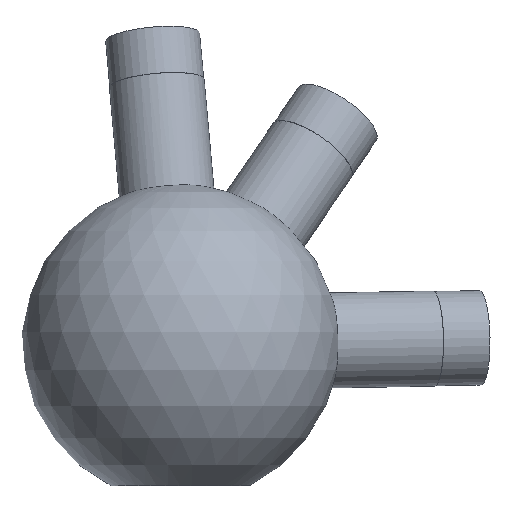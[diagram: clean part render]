
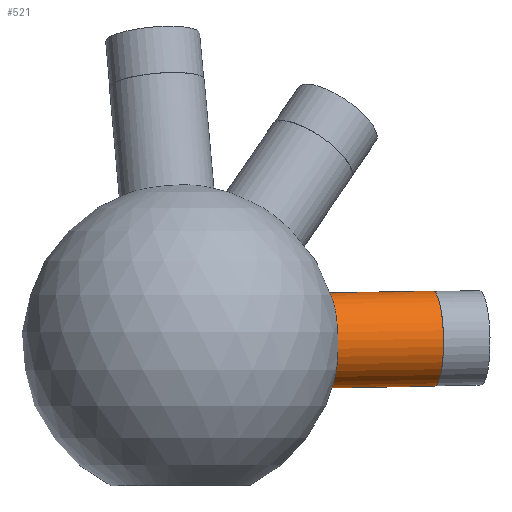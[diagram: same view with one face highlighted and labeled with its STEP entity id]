
A CAD part, left-side view. The second image highlights one B-rep face of the part: STEP entity #521.
In plain terms, the highlighted cylindrical face has radius 6 mm (diameter 12 mm), a full revolution.
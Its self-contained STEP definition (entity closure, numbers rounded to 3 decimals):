
#33 = SPHERICAL_SURFACE('',#34,20.);
#34 = AXIS2_PLACEMENT_3D('',#35,#36,#37);
#35 = CARTESIAN_POINT('',(0.,0.,0.));
#36 = DIRECTION('',(0.,0.,1.));
#37 = DIRECTION('',(1.,0.,-0.));
#247 = EDGE_CURVE('',#248,#248,#250,.T.);
#248 = VERTEX_POINT('',#249);
#249 = CARTESIAN_POINT('',(-1.934,-19.904,
    0.324));
#250 = SURFACE_CURVE('',#251,(#256,#318),.PCURVE_S1.);
#251 = CIRCLE('',#252,6.);
#252 = AXIS2_PLACEMENT_3D('',#253,#254,#255);
#253 = CARTESIAN_POINT('',(3.937,-18.665,0.324
    ));
#254 = DIRECTION('',(0.206,-0.978,0.017));
#255 = DIRECTION('',(0.978,0.206,0.));
#256 = PCURVE('',#33,#257);
#257 = DEFINITIONAL_REPRESENTATION('',(#258),#317);
#258 = B_SPLINE_CURVE_WITH_KNOTS('',8,(#259,#260,#261,#262,#263,#264,
    #265,#266,#267,#268,#269,#270,#271,#272,#273,#274,#275,#276,#277,
    #278,#279,#280,#281,#282,#283,#284,#285,#286,#287,#288,#289,#290,
    #291,#292,#293,#294,#295,#296,#297,#298,#299,#300,#301,#302,#303,
    #304,#305,#306,#307,#308,#309,#310,#311,#312,#313,#314,#315,#316),
  .UNSPECIFIED.,.F.,.F.,(9,7,7,7,7,7,7,7,9),(3.142,
    3.927,4.614,5.216,6.268,
    7.057,7.649,8.537,9.425),
  .UNSPECIFIED.);
#259 = CARTESIAN_POINT('',(4.616,0.016));
#260 = CARTESIAN_POINT('',(4.616,-0.013));
#261 = CARTESIAN_POINT('',(4.619,-0.043));
#262 = CARTESIAN_POINT('',(4.625,-0.072));
#263 = CARTESIAN_POINT('',(4.635,-0.1));
#264 = CARTESIAN_POINT('',(4.648,-0.127));
#265 = CARTESIAN_POINT('',(4.663,-0.152));
#266 = CARTESIAN_POINT('',(4.681,-0.176));
#267 = CARTESIAN_POINT('',(4.72,-0.216));
#268 = CARTESIAN_POINT('',(4.741,-0.233));
#269 = CARTESIAN_POINT('',(4.762,-0.247));
#270 = CARTESIAN_POINT('',(4.786,-0.26));
#271 = CARTESIAN_POINT('',(4.811,-0.27));
#272 = CARTESIAN_POINT('',(4.836,-0.278));
#273 = CARTESIAN_POINT('',(4.863,-0.284));
#274 = CARTESIAN_POINT('',(4.913,-0.288));
#275 = CARTESIAN_POINT('',(4.937,-0.289));
#276 = CARTESIAN_POINT('',(4.96,-0.287));
#277 = CARTESIAN_POINT('',(4.984,-0.283));
#278 = CARTESIAN_POINT('',(5.006,-0.278));
#279 = CARTESIAN_POINT('',(5.029,-0.27));
#280 = CARTESIAN_POINT('',(5.05,-0.26));
#281 = CARTESIAN_POINT('',(5.105,-0.23));
#282 = CARTESIAN_POINT('',(5.137,-0.205));
#283 = CARTESIAN_POINT('',(5.165,-0.175));
#284 = CARTESIAN_POINT('',(5.188,-0.142));
#285 = CARTESIAN_POINT('',(5.206,-0.105));
#286 = CARTESIAN_POINT('',(5.218,-0.067));
#287 = CARTESIAN_POINT('',(5.224,-0.028));
#288 = CARTESIAN_POINT('',(5.226,0.041));
#289 = CARTESIAN_POINT('',(5.223,0.071));
#290 = CARTESIAN_POINT('',(5.217,0.1));
#291 = CARTESIAN_POINT('',(5.208,0.129));
#292 = CARTESIAN_POINT('',(5.196,0.156));
#293 = CARTESIAN_POINT('',(5.181,0.182));
#294 = CARTESIAN_POINT('',(5.163,0.206));
#295 = CARTESIAN_POINT('',(5.127,0.244));
#296 = CARTESIAN_POINT('',(5.11,0.259));
#297 = CARTESIAN_POINT('',(5.092,0.273));
#298 = CARTESIAN_POINT('',(5.072,0.285));
#299 = CARTESIAN_POINT('',(5.051,0.295));
#300 = CARTESIAN_POINT('',(5.03,0.304));
#301 = CARTESIAN_POINT('',(5.007,0.31));
#302 = CARTESIAN_POINT('',(4.95,0.322));
#303 = CARTESIAN_POINT('',(4.915,0.325));
#304 = CARTESIAN_POINT('',(4.879,0.323));
#305 = CARTESIAN_POINT('',(4.844,0.317));
#306 = CARTESIAN_POINT('',(4.81,0.306));
#307 = CARTESIAN_POINT('',(4.779,0.292));
#308 = CARTESIAN_POINT('',(4.75,0.273));
#309 = CARTESIAN_POINT('',(4.697,0.23));
#310 = CARTESIAN_POINT('',(4.674,0.205));
#311 = CARTESIAN_POINT('',(4.655,0.177));
#312 = CARTESIAN_POINT('',(4.639,0.147));
#313 = CARTESIAN_POINT('',(4.627,0.116));
#314 = CARTESIAN_POINT('',(4.619,0.083));
#315 = CARTESIAN_POINT('',(4.615,0.05));
#316 = CARTESIAN_POINT('',(4.616,0.016));
#317 = ( GEOMETRIC_REPRESENTATION_CONTEXT(2) 
PARAMETRIC_REPRESENTATION_CONTEXT() REPRESENTATION_CONTEXT('2D SPACE',''
  ) );
#318 = PCURVE('',#319,#324);
#319 = CYLINDRICAL_SURFACE('',#320,6.);
#320 = AXIS2_PLACEMENT_3D('',#321,#322,#323);
#321 = CARTESIAN_POINT('',(0.,0.,0.));
#322 = DIRECTION('',(0.206,-0.978,0.017));
#323 = DIRECTION('',(-0.978,-0.206,0.)
  );
#324 = DEFINITIONAL_REPRESENTATION('',(#325),#329);
#325 = LINE('',#326,#327);
#326 = CARTESIAN_POINT('',(-3.142,19.079));
#327 = VECTOR('',#328,1.);
#328 = DIRECTION('',(1.,0.));
#329 = ( GEOMETRIC_REPRESENTATION_CONTEXT(2) 
PARAMETRIC_REPRESENTATION_CONTEXT() REPRESENTATION_CONTEXT('2D SPACE',''
  ) );
#521 = ADVANCED_FACE('',(#522),#319,.T.);
#522 = FACE_BOUND('',#523,.T.);
#523 = EDGE_LOOP('',(#524,#547,#574,#575));
#524 = ORIENTED_EDGE('',*,*,#525,.T.);
#525 = EDGE_CURVE('',#248,#526,#528,.T.);
#526 = VERTEX_POINT('',#527);
#527 = CARTESIAN_POINT('',(0.876,-33.229,0.556
    ));
#528 = SEAM_CURVE('',#529,(#533,#540),.PCURVE_S1.);
#529 = LINE('',#530,#531);
#530 = CARTESIAN_POINT('',(-5.871,-1.238,
    0.));
#531 = VECTOR('',#532,1.);
#532 = DIRECTION('',(0.206,-0.978,0.017));
#533 = PCURVE('',#319,#534);
#534 = DEFINITIONAL_REPRESENTATION('',(#535),#539);
#535 = LINE('',#536,#537);
#536 = CARTESIAN_POINT('',(6.283,-0.));
#537 = VECTOR('',#538,1.);
#538 = DIRECTION('',(0.,1.));
#539 = ( GEOMETRIC_REPRESENTATION_CONTEXT(2) 
PARAMETRIC_REPRESENTATION_CONTEXT() REPRESENTATION_CONTEXT('2D SPACE',''
  ) );
#540 = PCURVE('',#319,#541);
#541 = DEFINITIONAL_REPRESENTATION('',(#542),#546);
#542 = LINE('',#543,#544);
#543 = CARTESIAN_POINT('',(0.,-0.));
#544 = VECTOR('',#545,1.);
#545 = DIRECTION('',(0.,1.));
#546 = ( GEOMETRIC_REPRESENTATION_CONTEXT(2) 
PARAMETRIC_REPRESENTATION_CONTEXT() REPRESENTATION_CONTEXT('2D SPACE',''
  ) );
#547 = ORIENTED_EDGE('',*,*,#548,.F.);
#548 = EDGE_CURVE('',#526,#526,#549,.T.);
#549 = SURFACE_CURVE('',#550,(#555,#562),.PCURVE_S1.);
#550 = CIRCLE('',#551,6.);
#551 = AXIS2_PLACEMENT_3D('',#552,#553,#554);
#552 = CARTESIAN_POINT('',(6.747,-31.991,0.556)
  );
#553 = DIRECTION('',(0.206,-0.978,0.017));
#554 = DIRECTION('',(-0.978,-0.206,0.)
  );
#555 = PCURVE('',#319,#556);
#556 = DEFINITIONAL_REPRESENTATION('',(#557),#561);
#557 = LINE('',#558,#559);
#558 = CARTESIAN_POINT('',(0.,32.7));
#559 = VECTOR('',#560,1.);
#560 = DIRECTION('',(1.,0.));
#561 = ( GEOMETRIC_REPRESENTATION_CONTEXT(2) 
PARAMETRIC_REPRESENTATION_CONTEXT() REPRESENTATION_CONTEXT('2D SPACE',''
  ) );
#562 = PCURVE('',#563,#568);
#563 = PLANE('',#564);
#564 = AXIS2_PLACEMENT_3D('',#565,#566,#567);
#565 = CARTESIAN_POINT('',(6.747,-31.991,0.556)
  );
#566 = DIRECTION('',(0.206,-0.978,0.017));
#567 = DIRECTION('',(-0.978,-0.206,0.)
  );
#568 = DEFINITIONAL_REPRESENTATION('',(#569),#573);
#569 = CIRCLE('',#570,6.);
#570 = AXIS2_PLACEMENT_2D('',#571,#572);
#571 = CARTESIAN_POINT('',(0.,0.));
#572 = DIRECTION('',(1.,0.));
#573 = ( GEOMETRIC_REPRESENTATION_CONTEXT(2) 
PARAMETRIC_REPRESENTATION_CONTEXT() REPRESENTATION_CONTEXT('2D SPACE',''
  ) );
#574 = ORIENTED_EDGE('',*,*,#525,.F.);
#575 = ORIENTED_EDGE('',*,*,#247,.T.);
